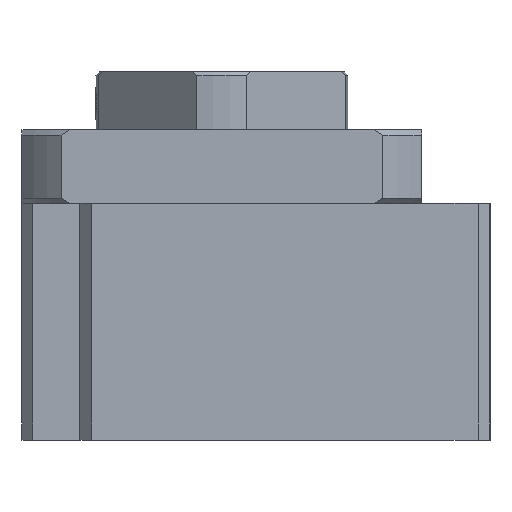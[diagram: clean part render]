
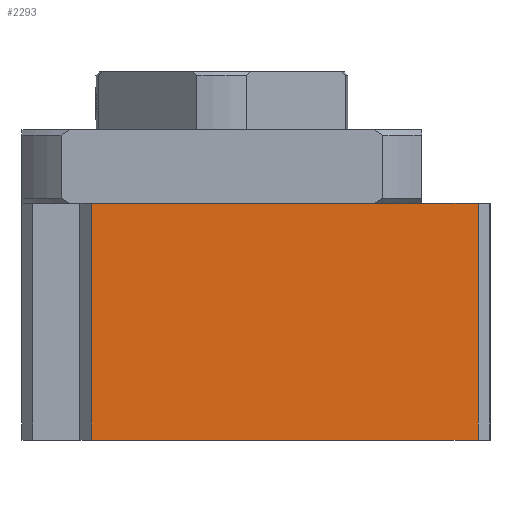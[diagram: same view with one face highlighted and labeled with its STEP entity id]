
A CAD part, left-side view. The second image highlights one B-rep face of the part: STEP entity #2293.
In plain terms, the highlighted planar face has unit normal (-1, 0, 0).
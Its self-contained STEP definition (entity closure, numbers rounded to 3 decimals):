
#117=LINE('',#3497,#289);
#130=LINE('',#3530,#302);
#131=LINE('',#3533,#303);
#132=LINE('',#3534,#304);
#289=VECTOR('',#2774,1000.);
#302=VECTOR('',#2797,1000.);
#303=VECTOR('',#2798,1000.);
#304=VECTOR('',#2799,1000.);
#453=PLANE('',#2493);
#591=ORIENTED_EDGE('',*,*,#1214,.F.);
#592=ORIENTED_EDGE('',*,*,#1215,.F.);
#593=ORIENTED_EDGE('',*,*,#1198,.T.);
#594=ORIENTED_EDGE('',*,*,#1216,.T.);
#1198=EDGE_CURVE('',#1509,#1510,#117,.T.);
#1214=EDGE_CURVE('',#1524,#1525,#130,.T.);
#1215=EDGE_CURVE('',#1509,#1524,#131,.T.);
#1216=EDGE_CURVE('',#1510,#1525,#132,.T.);
#1509=VERTEX_POINT('',#3498);
#1510=VERTEX_POINT('',#3499);
#1524=VERTEX_POINT('',#3531);
#1525=VERTEX_POINT('',#3532);
#1821=EDGE_LOOP('',(#591,#592,#593,#594));
#2043=FACE_BOUND('',#1821,.T.);
#2293=ADVANCED_FACE('',(#2043),#453,.T.);
#2493=AXIS2_PLACEMENT_3D('',#3529,#2795,#2796);
#2774=DIRECTION('',(0.,-1.,0.));
#2795=DIRECTION('',(-1.,0.,0.));
#2796=DIRECTION('',(0.,0.,1.));
#2797=DIRECTION('',(0.,-1.,0.));
#2798=DIRECTION('',(0.,0.,1.));
#2799=DIRECTION('',(0.,0.,1.));
#3497=CARTESIAN_POINT('',(-64.,24.72,-45.));
#3498=CARTESIAN_POINT('',(-64.,24.72,-45.));
#3499=CARTESIAN_POINT('',(-64.,-48.72,-45.));
#3529=CARTESIAN_POINT('',(-64.,24.72,-45.));
#3530=CARTESIAN_POINT('',(-64.,24.72,0.));
#3531=CARTESIAN_POINT('',(-64.,24.72,0.));
#3532=CARTESIAN_POINT('',(-64.,-48.72,0.));
#3533=CARTESIAN_POINT('',(-64.,24.72,-45.));
#3534=CARTESIAN_POINT('',(-64.,-48.72,-45.));
